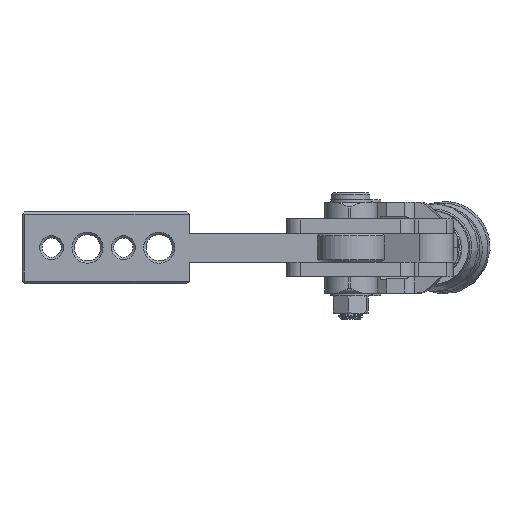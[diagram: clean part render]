
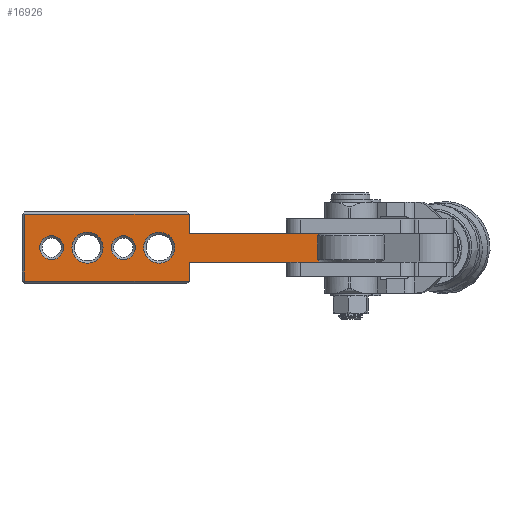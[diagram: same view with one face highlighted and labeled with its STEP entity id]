
A CAD part, front view. The second image highlights one B-rep face of the part: STEP entity #16926.
In plain terms, the highlighted planar face has unit normal (0, -1, 0).
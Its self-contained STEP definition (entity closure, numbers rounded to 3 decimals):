
#388=FACE_BOUND('',#2911,.T.);
#389=FACE_BOUND('',#2912,.T.);
#390=FACE_BOUND('',#2913,.T.);
#391=FACE_BOUND('',#2914,.T.);
#1216=PLANE('',#18441);
#1969=FACE_OUTER_BOUND('',#2910,.T.);
#2910=EDGE_LOOP('',(#14283,#14284,#14285,#14286,#14287,#14288,#14289,#14290));
#2911=EDGE_LOOP('',(#14291,#14292));
#2912=EDGE_LOOP('',(#14293,#14294));
#2913=EDGE_LOOP('',(#14295,#14296));
#2914=EDGE_LOOP('',(#14297,#14298));
#4282=LINE('',#37747,#5804);
#4286=LINE('',#37755,#5808);
#4287=LINE('',#37757,#5809);
#4288=LINE('',#37760,#5810);
#4290=LINE('',#37764,#5812);
#4302=LINE('',#37791,#5824);
#4303=LINE('',#37794,#5825);
#4304=LINE('',#37795,#5826);
#5804=VECTOR('',#21909,1000.);
#5808=VECTOR('',#21917,1000.);
#5809=VECTOR('',#21920,1000.);
#5810=VECTOR('',#21923,1000.);
#5812=VECTOR('',#21927,1000.);
#5824=VECTOR('',#21957,1000.);
#5825=VECTOR('',#21960,1000.);
#5826=VECTOR('',#21961,1000.);
#6611=CIRCLE('',#18360,3.25);
#6612=CIRCLE('',#18361,3.25);
#6615=CIRCLE('',#18365,2.5);
#6616=CIRCLE('',#18366,2.5);
#6620=CIRCLE('',#18371,3.25);
#6621=CIRCLE('',#18372,3.25);
#6624=CIRCLE('',#18376,2.5);
#6625=CIRCLE('',#18377,2.5);
#7858=VERTEX_POINT('',#37568);
#7859=VERTEX_POINT('',#37570);
#7862=VERTEX_POINT('',#37578);
#7863=VERTEX_POINT('',#37580);
#7867=VERTEX_POINT('',#37590);
#7868=VERTEX_POINT('',#37592);
#7871=VERTEX_POINT('',#37600);
#7872=VERTEX_POINT('',#37602);
#7909=VERTEX_POINT('',#37705);
#7912=VERTEX_POINT('',#37716);
#7920=VERTEX_POINT('',#37744);
#7921=VERTEX_POINT('',#37746);
#7924=VERTEX_POINT('',#37759);
#7925=VERTEX_POINT('',#37763);
#7931=VERTEX_POINT('',#37789);
#7932=VERTEX_POINT('',#37793);
#10059=EDGE_CURVE('',#7858,#7859,#6611,.T.);
#10060=EDGE_CURVE('',#7859,#7858,#6612,.T.);
#10064=EDGE_CURVE('',#7862,#7863,#6615,.T.);
#10065=EDGE_CURVE('',#7863,#7862,#6616,.T.);
#10070=EDGE_CURVE('',#7867,#7868,#6620,.T.);
#10071=EDGE_CURVE('',#7868,#7867,#6621,.T.);
#10075=EDGE_CURVE('',#7871,#7872,#6624,.T.);
#10076=EDGE_CURVE('',#7872,#7871,#6625,.T.);
#10146=EDGE_CURVE('',#7920,#7921,#4282,.T.);
#10151=EDGE_CURVE('',#7921,#7909,#4286,.T.);
#10152=EDGE_CURVE('',#7909,#7912,#4287,.T.);
#10153=EDGE_CURVE('',#7912,#7924,#4288,.T.);
#10155=EDGE_CURVE('',#7924,#7925,#4290,.T.);
#10169=EDGE_CURVE('',#7931,#7920,#4302,.T.);
#10170=EDGE_CURVE('',#7931,#7932,#4303,.T.);
#10171=EDGE_CURVE('',#7932,#7925,#4304,.T.);
#14283=ORIENTED_EDGE('',*,*,#10155,.F.);
#14284=ORIENTED_EDGE('',*,*,#10153,.F.);
#14285=ORIENTED_EDGE('',*,*,#10152,.F.);
#14286=ORIENTED_EDGE('',*,*,#10151,.F.);
#14287=ORIENTED_EDGE('',*,*,#10146,.F.);
#14288=ORIENTED_EDGE('',*,*,#10169,.F.);
#14289=ORIENTED_EDGE('',*,*,#10170,.T.);
#14290=ORIENTED_EDGE('',*,*,#10171,.T.);
#14291=ORIENTED_EDGE('',*,*,#10060,.F.);
#14292=ORIENTED_EDGE('',*,*,#10059,.F.);
#14293=ORIENTED_EDGE('',*,*,#10065,.F.);
#14294=ORIENTED_EDGE('',*,*,#10064,.F.);
#14295=ORIENTED_EDGE('',*,*,#10071,.F.);
#14296=ORIENTED_EDGE('',*,*,#10070,.F.);
#14297=ORIENTED_EDGE('',*,*,#10076,.F.);
#14298=ORIENTED_EDGE('',*,*,#10075,.F.);
#16926=ADVANCED_FACE('',(#1969,#388,#389,#390,#391),#1216,.F.);
#18360=AXIS2_PLACEMENT_3D('',#37571,#21728,#21729);
#18361=AXIS2_PLACEMENT_3D('',#37572,#21730,#21731);
#18365=AXIS2_PLACEMENT_3D('',#37581,#21739,#21740);
#18366=AXIS2_PLACEMENT_3D('',#37582,#21741,#21742);
#18371=AXIS2_PLACEMENT_3D('',#37593,#21752,#21753);
#18372=AXIS2_PLACEMENT_3D('',#37594,#21754,#21755);
#18376=AXIS2_PLACEMENT_3D('',#37603,#21763,#21764);
#18377=AXIS2_PLACEMENT_3D('',#37604,#21765,#21766);
#18441=AXIS2_PLACEMENT_3D('',#37792,#21958,#21959);
#21728=DIRECTION('center_axis',(0.,-1.,0.));
#21729=DIRECTION('ref_axis',(1.,0.,0.));
#21730=DIRECTION('center_axis',(0.,-1.,0.));
#21731=DIRECTION('ref_axis',(1.,0.,0.));
#21739=DIRECTION('center_axis',(0.,-1.,0.));
#21740=DIRECTION('ref_axis',(0.,0.,-1.));
#21741=DIRECTION('center_axis',(0.,-1.,0.));
#21742=DIRECTION('ref_axis',(0.,0.,-1.));
#21752=DIRECTION('center_axis',(0.,-1.,0.));
#21753=DIRECTION('ref_axis',(1.,0.,0.));
#21754=DIRECTION('center_axis',(0.,-1.,0.));
#21755=DIRECTION('ref_axis',(1.,0.,0.));
#21763=DIRECTION('center_axis',(0.,-1.,0.));
#21764=DIRECTION('ref_axis',(0.,0.,-1.));
#21765=DIRECTION('center_axis',(0.,-1.,0.));
#21766=DIRECTION('ref_axis',(0.,0.,-1.));
#21909=DIRECTION('',(-1.,0.,0.));
#21917=DIRECTION('',(0.,0.,-1.));
#21920=DIRECTION('',(-1.,0.,0.));
#21923=DIRECTION('',(0.,0.,1.));
#21927=DIRECTION('',(1.,0.,0.));
#21957=DIRECTION('',(0.,0.,-1.));
#21958=DIRECTION('center_axis',(0.,1.,0.));
#21959=DIRECTION('ref_axis',(0.,0.,1.));
#21960=DIRECTION('',(-1.,0.,0.));
#21961=DIRECTION('',(0.,0.,1.));
#37568=CARTESIAN_POINT('',(108.457,-96.77,7.5));
#37570=CARTESIAN_POINT('',(114.957,-96.77,7.5));
#37571=CARTESIAN_POINT('Origin',(111.707,-96.77,7.5));
#37572=CARTESIAN_POINT('Origin',(111.707,-96.77,7.5));
#37578=CARTESIAN_POINT('',(104.207,-96.77,10.));
#37580=CARTESIAN_POINT('',(104.207,-96.77,5.));
#37581=CARTESIAN_POINT('Origin',(104.207,-96.77,7.5));
#37582=CARTESIAN_POINT('Origin',(104.207,-96.77,7.5));
#37590=CARTESIAN_POINT('',(93.457,-96.77,7.5));
#37592=CARTESIAN_POINT('',(99.957,-96.77,7.5));
#37593=CARTESIAN_POINT('Origin',(96.707,-96.77,7.5));
#37594=CARTESIAN_POINT('Origin',(96.707,-96.77,7.5));
#37600=CARTESIAN_POINT('',(89.207,-96.77,10.));
#37602=CARTESIAN_POINT('',(89.207,-96.77,5.));
#37603=CARTESIAN_POINT('Origin',(89.207,-96.77,7.5));
#37604=CARTESIAN_POINT('Origin',(89.207,-96.77,7.5));
#37705=CARTESIAN_POINT('',(118.007,-96.77,0.5));
#37716=CARTESIAN_POINT('',(83.507,-96.77,0.5));
#37744=CARTESIAN_POINT('',(151.925,-96.77,4.5));
#37746=CARTESIAN_POINT('',(118.007,-96.77,4.5));
#37747=CARTESIAN_POINT('',(83.007,-96.77,4.5));
#37755=CARTESIAN_POINT('',(118.007,-96.77,15.));
#37757=CARTESIAN_POINT('',(83.007,-96.77,0.5));
#37759=CARTESIAN_POINT('',(83.507,-96.77,14.5));
#37760=CARTESIAN_POINT('',(83.507,-96.77,15.));
#37763=CARTESIAN_POINT('',(118.007,-96.77,14.5));
#37764=CARTESIAN_POINT('',(83.007,-96.77,14.5));
#37789=CARTESIAN_POINT('',(151.925,-96.77,10.5));
#37791=CARTESIAN_POINT('',(151.925,-96.77,15.));
#37792=CARTESIAN_POINT('Origin',(83.007,-96.77,15.));
#37793=CARTESIAN_POINT('',(118.007,-96.77,10.5));
#37794=CARTESIAN_POINT('',(118.007,-96.77,10.5));
#37795=CARTESIAN_POINT('',(118.007,-96.77,15.));
